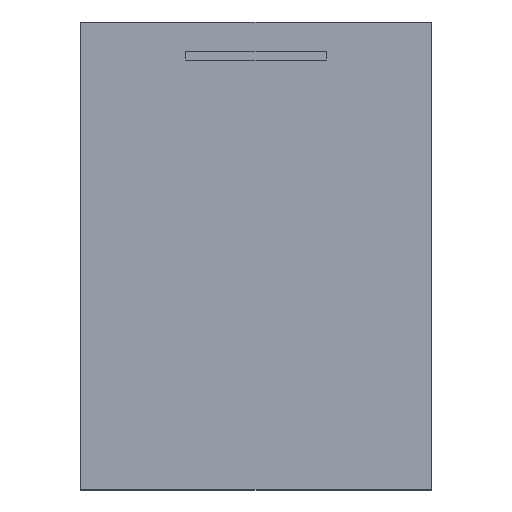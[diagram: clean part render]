
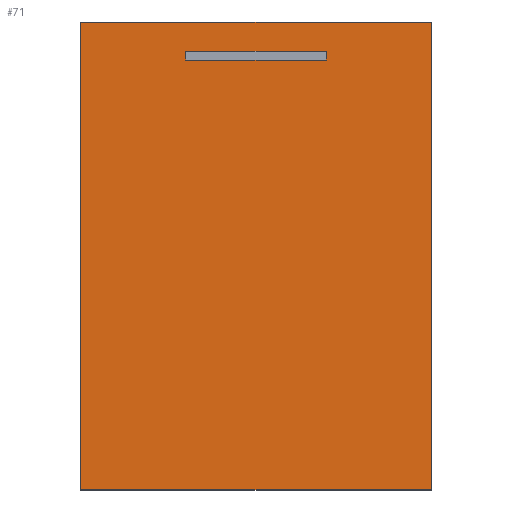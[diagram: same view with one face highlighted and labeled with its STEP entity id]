
A CAD part, top view. The second image highlights one B-rep face of the part: STEP entity #71.
In plain terms, the highlighted planar face has unit normal (0, 0, 1).
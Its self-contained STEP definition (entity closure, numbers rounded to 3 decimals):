
#13 = ORIENTED_EDGE ( 'NONE', *, *, #333, .T. ) ;
#25 = CARTESIAN_POINT ( 'NONE',  ( -120., 335., 4. ) ) ;
#50 = LINE ( 'NONE', #420, #1475 ) ;
#71 = ADVANCED_FACE ( 'NONE', ( #147, #1047 ), #674, .F. ) ;
#113 = CARTESIAN_POINT ( 'NONE',  ( 0., 0., 4. ) ) ;
#132 = CARTESIAN_POINT ( 'NONE',  ( -299.5, -399.5, 4. ) ) ;
#147 = FACE_BOUND ( 'NONE', #1312, .T. ) ;
#150 = CARTESIAN_POINT ( 'NONE',  ( -120., 350., 4. ) ) ;
#164 = DIRECTION ( 'NONE',  ( 0., 1., 0. ) ) ;
#203 = EDGE_CURVE ( 'NONE', #1591, #1456, #50, .T. ) ;
#244 = DIRECTION ( 'NONE',  ( 0., -1., 0. ) ) ;
#247 = DIRECTION ( 'NONE',  ( -1., 0., 0. ) ) ;
#267 = CARTESIAN_POINT ( 'NONE',  ( 0., -399.5, 4. ) ) ;
#271 = DIRECTION ( 'NONE',  ( 1., 0., 0. ) ) ;
#282 = EDGE_CURVE ( 'NONE', #790, #1144, #1137, .T. ) ;
#305 = ORIENTED_EDGE ( 'NONE', *, *, #1553, .F. ) ;
#317 = DIRECTION ( 'NONE',  ( 1., 0., 0. ) ) ;
#328 = ORIENTED_EDGE ( 'NONE', *, *, #1825, .F. ) ;
#332 = CARTESIAN_POINT ( 'NONE',  ( -120., 350., 4. ) ) ;
#333 = EDGE_CURVE ( 'NONE', #1144, #1591, #1538, .T. ) ;
#357 = CARTESIAN_POINT ( 'NONE',  ( 120., 335., 4. ) ) ;
#382 = VECTOR ( 'NONE', #244, 1000. ) ;
#394 = EDGE_CURVE ( 'NONE', #1415, #761, #1827, .T. ) ;
#420 = CARTESIAN_POINT ( 'NONE',  ( 0., 399.5, 4. ) ) ;
#434 = VECTOR ( 'NONE', #576, 1000. ) ;
#445 = CARTESIAN_POINT ( 'NONE',  ( -120., 350., 4. ) ) ;
#447 = ORIENTED_EDGE ( 'NONE', *, *, #1708, .F. ) ;
#448 = DIRECTION ( 'NONE',  ( 0., -1., 0. ) ) ;
#474 = CARTESIAN_POINT ( 'NONE',  ( -120., 335., 4. ) ) ;
#516 = LINE ( 'NONE', #332, #1323 ) ;
#521 = CARTESIAN_POINT ( 'NONE',  ( -299.5, 399.5, 4. ) ) ;
#576 = DIRECTION ( 'NONE',  ( -1., 0., 0. ) ) ;
#674 = PLANE ( 'NONE',  #1745 ) ;
#681 = ORIENTED_EDGE ( 'NONE', *, *, #394, .F. ) ;
#722 = VECTOR ( 'NONE', #164, 1000. ) ;
#761 = VERTEX_POINT ( 'NONE', #150 ) ;
#790 = VERTEX_POINT ( 'NONE', #132 ) ;
#842 = ORIENTED_EDGE ( 'NONE', *, *, #203, .T. ) ;
#880 = CARTESIAN_POINT ( 'NONE',  ( 299.5, 0., 4. ) ) ;
#961 = CARTESIAN_POINT ( 'NONE',  ( 120., 350., 4. ) ) ;
#1047 = FACE_OUTER_BOUND ( 'NONE', #1884, .T. ) ;
#1083 = VECTOR ( 'NONE', #317, 1000. ) ;
#1090 = CARTESIAN_POINT ( 'NONE',  ( 120., 350., 4. ) ) ;
#1137 = LINE ( 'NONE', #267, #1253 ) ;
#1144 = VERTEX_POINT ( 'NONE', #1818 ) ;
#1209 = CARTESIAN_POINT ( 'NONE',  ( 299.5, 399.5, 4. ) ) ;
#1253 = VECTOR ( 'NONE', #271, 1000. ) ;
#1312 = EDGE_LOOP ( 'NONE', ( #447, #305, #681, #328 ) ) ;
#1323 = VECTOR ( 'NONE', #448, 1000. ) ;
#1398 = EDGE_CURVE ( 'NONE', #1456, #790, #1846, .T. ) ;
#1408 = VERTEX_POINT ( 'NONE', #357 ) ;
#1410 = CARTESIAN_POINT ( 'NONE',  ( -299.5, 0., 4. ) ) ;
#1415 = VERTEX_POINT ( 'NONE', #1090 ) ;
#1443 = LINE ( 'NONE', #961, #1490 ) ;
#1456 = VERTEX_POINT ( 'NONE', #521 ) ;
#1475 = VECTOR ( 'NONE', #1874, 1000. ) ;
#1490 = VECTOR ( 'NONE', #1845, 1000. ) ;
#1538 = LINE ( 'NONE', #880, #722 ) ;
#1553 = EDGE_CURVE ( 'NONE', #761, #1609, #516, .T. ) ;
#1591 = VERTEX_POINT ( 'NONE', #1209 ) ;
#1609 = VERTEX_POINT ( 'NONE', #474 ) ;
#1610 = ORIENTED_EDGE ( 'NONE', *, *, #282, .T. ) ;
#1708 = EDGE_CURVE ( 'NONE', #1609, #1408, #1844, .T. ) ;
#1745 = AXIS2_PLACEMENT_3D ( 'NONE', #113, #1829, #247 ) ;
#1791 = ORIENTED_EDGE ( 'NONE', *, *, #1398, .T. ) ;
#1818 = CARTESIAN_POINT ( 'NONE',  ( 299.5, -399.5, 4. ) ) ;
#1825 = EDGE_CURVE ( 'NONE', #1408, #1415, #1443, .T. ) ;
#1827 = LINE ( 'NONE', #445, #434 ) ;
#1829 = DIRECTION ( 'NONE',  ( 0., 0., -1. ) ) ;
#1844 = LINE ( 'NONE', #25, #1083 ) ;
#1845 = DIRECTION ( 'NONE',  ( 0., 1., 0. ) ) ;
#1846 = LINE ( 'NONE', #1410, #382 ) ;
#1874 = DIRECTION ( 'NONE',  ( -1., 0., 0. ) ) ;
#1884 = EDGE_LOOP ( 'NONE', ( #13, #842, #1791, #1610 ) ) ;
